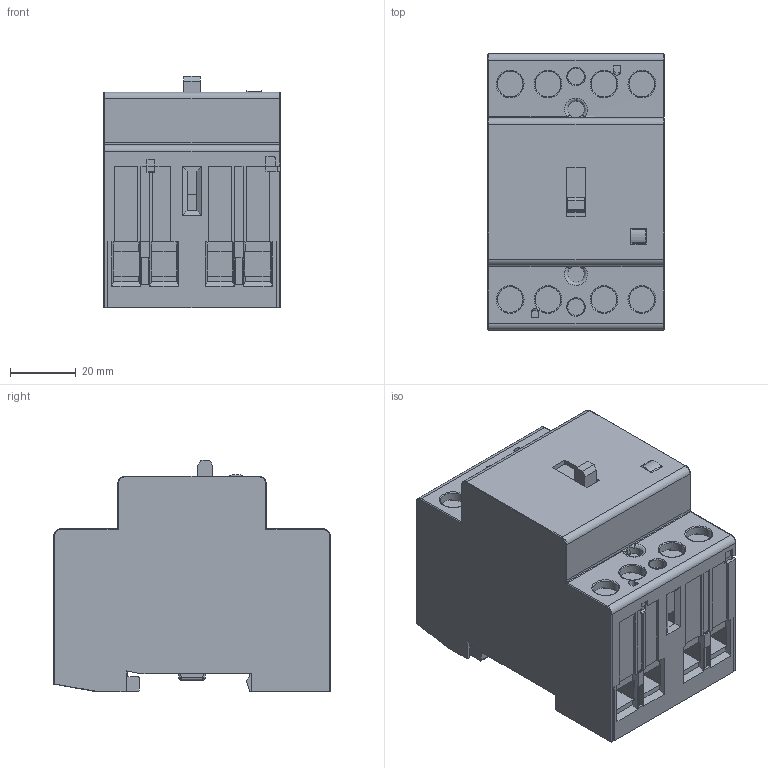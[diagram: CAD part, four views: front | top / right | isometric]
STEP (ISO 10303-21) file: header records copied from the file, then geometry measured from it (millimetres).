
FILE_DESCRIPTION (( 'STEP AP214' ), '1' );
FILE_NAME ('RAC40.STEP', '2024-04-11T06:40:05', ( '' ), ( '' ), 'SwSTEP 2.0', 'SolidWorks 2022', '' );
FILE_SCHEMA (( 'AUTOMOTIVE_DESIGN' ));
Length unit declared in the file: millimetre
Products named in the file (1): RAC40
Bounding box: 53.5 x 84.4 x 70.3 mm (x, y, z)
Volume: 234991.1 mm3; surface area: 45562 mm2
Topology: 1 solids, 11 shells, 1256 faces, 3518 edges, 2302 vertices
Faces by surface type: plane 1035, cylinder 173, bspline 42, cone 6
Entity records: 41992 total; most frequent: CARTESIAN_POINT 9486, ORIENTED_EDGE 7018, DIRECTION 6269, EDGE_CURVE 3509, VECTOR 3003, LINE 3003, VERTEX_POINT 2300, AXIS2_PLACEMENT_3D 1633
